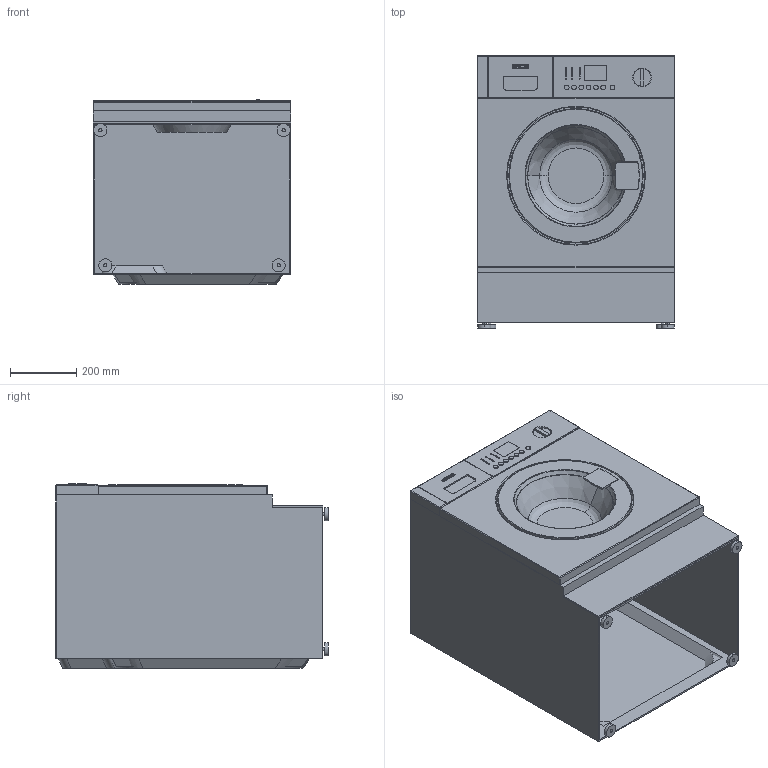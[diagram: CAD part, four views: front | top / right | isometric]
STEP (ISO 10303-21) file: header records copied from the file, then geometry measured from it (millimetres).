
FILE_DESCRIPTION (( 'STEP AP214' ), '1' );
FILE_NAME ('LAVATRICE ST.STEP', '2017-12-07T16:18:46', ( '' ), ( '' ), 'SwSTEP 2.0', 'SolidWorks 2016', '' );
FILE_SCHEMA (( 'AUTOMOTIVE_DESIGN' ));
Length unit declared in the file: millimetre
Products named in the file (1): LAVATRICE ST
Bounding box: 596 x 820 x 555.5 mm (x, y, z)
Volume: 11555478.3 mm3; surface area: 5350692.8 mm2
Topology: 18 solids, 18 shells, 447 faces, 1078 edges, 698 vertices
Faces by surface type: plane 218, cylinder 189, bspline 21, cone 8, torus 7, sphere 4
Entity records: 13396 total; most frequent: CARTESIAN_POINT 2652, DIRECTION 2231, ORIENTED_EDGE 2148, EDGE_CURVE 1074, AXIS2_PLACEMENT_3D 817, VERTEX_POINT 698, VECTOR 597, LINE 597
